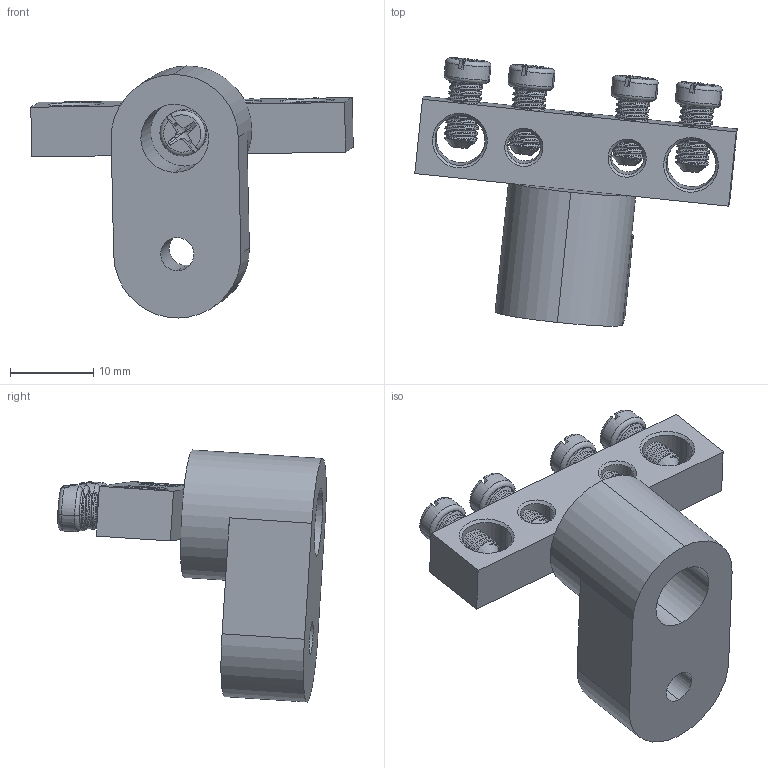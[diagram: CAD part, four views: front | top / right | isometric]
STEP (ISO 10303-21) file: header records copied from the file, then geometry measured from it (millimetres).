
FILE_DESCRIPTION (( 'STEP AP214' ), '1' );
FILE_NAME ('277942 Optikit BB-O-N-S-4-6õ9-ñèíèé.STEP', '2020-02-06T12:57:33', ( '' ), ( '' ), 'SwSTEP 2.0', 'SolidWorks 2018', '' );
FILE_SCHEMA (( 'AUTOMOTIVE_DESIGN' ));
Length unit declared in the file: millimetre
Products named in the file (5): Øèíà íóëåâàÿ ñ êðåïåæíûì îòâåðñòèåì ïî öåíòðó 6õ9 4-1_1; Øèíà 6õ9 4 1; Âèíò ì4; DIN èçîëÿòîð 2; 277942 Optikit BB-O-N-S-4-6õ9-ñèíèé
Assembly tree (8 placements, depth 3):
  277942 Optikit BB-O-N-S-4-6õ9-ñèíèé
    DIN èçîëÿòîð 2
    Âèíò ì4
    Øèíà íóëåâàÿ ñ êðåïåæíûì îòâåðñòèåì ïî öåíòðó 6õ9 4-1_1
      Øèíà 6õ9 4 1
      Âèíò ì4  x4
Bounding box: 38.84 x 32.34 x 30.37 mm (x, y, z)
Volume: 6410.6 mm3; surface area: 4945.2 mm2
Topology: 7 solids, 7 shells, 405 faces, 1119 edges, 724 vertices
Faces by surface type: plane 147, cylinder 142, cone 61, torus 35, bspline 20
Entity records: 6287 total; most frequent: CARTESIAN_POINT 2999, ORIENTED_EDGE 658, DIRECTION 602, EDGE_CURVE 329, AXIS2_PLACEMENT_3D 234, VERTEX_POINT 212, EDGE_LOOP 149, VECTOR 134
